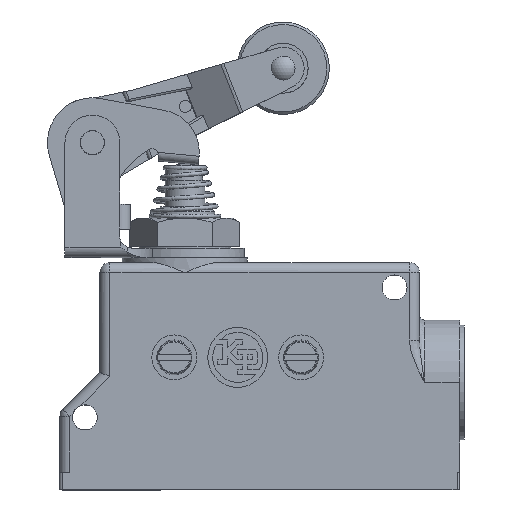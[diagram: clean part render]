
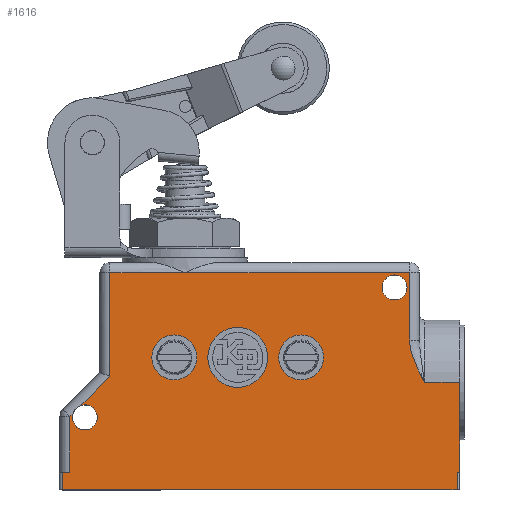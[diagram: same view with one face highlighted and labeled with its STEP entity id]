
A CAD part, top view. The second image highlights one B-rep face of the part: STEP entity #1616.
In plain terms, the highlighted planar face has unit normal (0, 0, 1).
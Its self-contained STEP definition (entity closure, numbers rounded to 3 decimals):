
#1360=CARTESIAN_POINT('',(-2.4,2.,12.5));
#1361=VERTEX_POINT('',#1360);
#1362=CARTESIAN_POINT('',(-8.4,2.,12.5));
#1363=DIRECTION('',(0.0,0.0,-1.0));
#1364=DIRECTION('',(-1.0,0.0,0.0));
#1365=AXIS2_PLACEMENT_3D('',#1362,#1363,#1364);
#1366=CIRCLE('',#1365,6.);
#1367=EDGE_CURVE('',#1361,#1361,#1366,.T.);
#1435=CARTESIAN_POINT('',(-0.842,-0.842,12.5));
#1436=DIRECTION('',(0.0,0.0,1.0));
#1437=DIRECTION('',(1.0,0.0,0.0));
#1438=AXIS2_PLACEMENT_3D('',#1435,#1436,#1437);
#1439=PLANE('',#1438);
#1440=CARTESIAN_POINT('',(-39.805,-7.633,12.5));
#1441=VERTEX_POINT('',#1440);
#1442=CARTESIAN_POINT('',(-41.367,-9.195,12.5));
#1443=VERTEX_POINT('',#1442);
#1444=CARTESIAN_POINT('',(-39.0,-10.0,12.5));
#1445=DIRECTION('',(0.0,0.0,-1.0));
#1446=DIRECTION('',(1.0,0.0,0.0));
#1447=AXIS2_PLACEMENT_3D('',#1444,#1445,#1446);
#1448=CIRCLE('',#1447,2.5);
#1449=EDGE_CURVE('',#1441,#1443,#1448,.T.);
#1450=ORIENTED_EDGE('',*,*,#1449,.T.);
#1451=CARTESIAN_POINT('',(-42.,-9.828,12.5));
#1452=VERTEX_POINT('',#1451);
#1453=CARTESIAN_POINT('',(-42.,-9.828,12.5));
#1454=DIRECTION('',(0.707,0.707,0.0));
#1455=VECTOR('',#1454,0.895);
#1456=LINE('',#1453,#1455);
#1457=EDGE_CURVE('',#1452,#1443,#1456,.T.);
#1458=ORIENTED_EDGE('',*,*,#1457,.F.);
#1459=CARTESIAN_POINT('',(-42.0,-21.0,12.5));
#1460=VERTEX_POINT('',#1459);
#1461=CARTESIAN_POINT('',(-42.0,-21.0,12.5));
#1462=DIRECTION('',(0.0,1.0,0.0));
#1463=VECTOR('',#1462,11.172);
#1464=LINE('',#1461,#1463);
#1465=EDGE_CURVE('',#1460,#1452,#1464,.T.);
#1466=ORIENTED_EDGE('',*,*,#1465,.F.);
#1467=CARTESIAN_POINT('',(-43.5,-21.0,12.5));
#1468=VERTEX_POINT('',#1467);
#1469=CARTESIAN_POINT('',(-42.,-21.,12.5));
#1470=DIRECTION('',(-1.0,0.0,0.0));
#1471=VECTOR('',#1470,1.5);
#1472=LINE('',#1469,#1471);
#1473=EDGE_CURVE('',#1460,#1468,#1472,.T.);
#1474=ORIENTED_EDGE('',*,*,#1473,.T.);
#1475=CARTESIAN_POINT('',(-43.5,-24.5,12.5));
#1476=VERTEX_POINT('',#1475);
#1477=CARTESIAN_POINT('',(-43.5,-24.5,12.5));
#1478=DIRECTION('',(0.0,1.0,0.0));
#1479=VECTOR('',#1478,3.5);
#1480=LINE('',#1477,#1479);
#1481=EDGE_CURVE('',#1476,#1468,#1480,.T.);
#1482=ORIENTED_EDGE('',*,*,#1481,.F.);
#1483=CARTESIAN_POINT('',(35.5,-24.5,12.5));
#1484=VERTEX_POINT('',#1483);
#1485=CARTESIAN_POINT('',(-43.5,-24.5,12.5));
#1486=DIRECTION('',(1.0,0.0,0.0));
#1487=VECTOR('',#1486,79.0);
#1488=LINE('',#1485,#1487);
#1489=EDGE_CURVE('',#1476,#1484,#1488,.T.);
#1490=ORIENTED_EDGE('',*,*,#1489,.T.);
#1491=CARTESIAN_POINT('',(35.5,-21.,12.5));
#1492=VERTEX_POINT('',#1491);
#1493=CARTESIAN_POINT('',(35.5,-21.,12.5));
#1494=DIRECTION('',(0.0,-1.0,0.0));
#1495=VECTOR('',#1494,3.5);
#1496=LINE('',#1493,#1495);
#1497=EDGE_CURVE('',#1492,#1484,#1496,.T.);
#1498=ORIENTED_EDGE('',*,*,#1497,.F.);
#1499=CARTESIAN_POINT('',(36.0,-21.,12.5));
#1500=VERTEX_POINT('',#1499);
#1501=CARTESIAN_POINT('',(36.0,-21.0,12.5));
#1502=DIRECTION('',(-1.0,0.0,0.0));
#1503=VECTOR('',#1502,0.5);
#1504=LINE('',#1501,#1503);
#1505=EDGE_CURVE('',#1500,#1492,#1504,.T.);
#1506=ORIENTED_EDGE('',*,*,#1505,.F.);
#1507=CARTESIAN_POINT('',(36.0,-3.,12.5));
#1508=VERTEX_POINT('',#1507);
#1509=CARTESIAN_POINT('',(36.0,-3.,12.5));
#1510=DIRECTION('',(0.0,-1.0,0.0));
#1511=VECTOR('',#1510,18.0);
#1512=LINE('',#1509,#1511);
#1513=EDGE_CURVE('',#1508,#1500,#1512,.T.);
#1514=ORIENTED_EDGE('',*,*,#1513,.F.);
#1515=CARTESIAN_POINT('',(29.,-3.,12.5));
#1516=VERTEX_POINT('',#1515);
#1517=CARTESIAN_POINT('',(29.,-3.,12.5));
#1518=DIRECTION('',(1.0,0.0,0.0));
#1519=VECTOR('',#1518,7.);
#1520=LINE('',#1517,#1519);
#1521=EDGE_CURVE('',#1516,#1508,#1520,.T.);
#1522=ORIENTED_EDGE('',*,*,#1521,.F.);
#1523=CARTESIAN_POINT('',(26.,5.485,12.5));
#1524=VERTEX_POINT('',#1523);
#1525=CARTESIAN_POINT('',(26.,5.485,12.5));
#1526=CARTESIAN_POINT('',(26.,4.882,12.5));
#1527=CARTESIAN_POINT('',(26.143,3.67,12.5));
#1528=CARTESIAN_POINT('',(26.648,1.918,12.5));
#1529=CARTESIAN_POINT('',(27.22,0.524,12.5));
#1530=CARTESIAN_POINT('',(27.736,-0.571,12.5));
#1531=CARTESIAN_POINT('',(28.144,-1.383,12.5));
#1532=CARTESIAN_POINT('',(28.566,-2.188,12.5));
#1533=CARTESIAN_POINT('',(28.851,-2.721,12.5));
#1534=CARTESIAN_POINT('',(28.995,-2.991,12.5));
#1535=CARTESIAN_POINT('',(28.998,-2.996,12.5));
#1536=CARTESIAN_POINT('',(29.,-3.,12.5));
#1537=B_SPLINE_CURVE_WITH_KNOTS('',3,(#1525,#1526,#1527,#1528,#1529,#1530,#1531,#1532,#1533,#1534,#1535,#1536),.UNSPECIFIED.,.F.,.U.,(4,1,1,1,1,1,1,2,4),(0.0,0.181,0.362,0.543,0.634,0.724,0.815,0.906,0.907),.UNSPECIFIED.);
#1538=EDGE_CURVE('',#1524,#1516,#1537,.T.);
#1539=ORIENTED_EDGE('',*,*,#1538,.F.);
#1540=CARTESIAN_POINT('',(26.,19.,12.5));
#1541=VERTEX_POINT('',#1540);
#1542=CARTESIAN_POINT('',(26.,19.,12.5));
#1543=DIRECTION('',(0.0,-1.0,0.0));
#1544=VECTOR('',#1543,13.515);
#1545=LINE('',#1542,#1544);
#1546=EDGE_CURVE('',#1541,#1524,#1545,.T.);
#1547=ORIENTED_EDGE('',*,*,#1546,.F.);
#1548=CARTESIAN_POINT('',(-19.,19.,12.5));
#1549=VERTEX_POINT('',#1548);
#1550=CARTESIAN_POINT('',(-19.0,19.,12.5));
#1551=DIRECTION('',(1.0,0.0,0.0));
#1552=VECTOR('',#1551,45.);
#1553=LINE('',#1550,#1552);
#1554=EDGE_CURVE('',#1549,#1541,#1553,.T.);
#1555=ORIENTED_EDGE('',*,*,#1554,.F.);
#1556=CARTESIAN_POINT('',(-34.,19.,12.5));
#1557=VERTEX_POINT('',#1556);
#1558=CARTESIAN_POINT('',(-34.,19.,12.5));
#1559=DIRECTION('',(1.0,0.0,0.0));
#1560=VECTOR('',#1559,15.);
#1561=LINE('',#1558,#1560);
#1562=EDGE_CURVE('',#1557,#1549,#1561,.T.);
#1563=ORIENTED_EDGE('',*,*,#1562,.F.);
#1564=CARTESIAN_POINT('',(-34.,-1.828,12.5));
#1565=VERTEX_POINT('',#1564);
#1566=CARTESIAN_POINT('',(-34.,-1.828,12.5));
#1567=DIRECTION('',(0.0,1.0,0.0));
#1568=VECTOR('',#1567,20.828);
#1569=LINE('',#1566,#1568);
#1570=EDGE_CURVE('',#1565,#1557,#1569,.T.);
#1571=ORIENTED_EDGE('',*,*,#1570,.F.);
#1572=CARTESIAN_POINT('',(-39.805,-7.633,12.5));
#1573=DIRECTION('',(0.707,0.707,0.0));
#1574=VECTOR('',#1573,8.209);
#1575=LINE('',#1572,#1574);
#1576=EDGE_CURVE('',#1441,#1565,#1575,.T.);
#1577=ORIENTED_EDGE('',*,*,#1576,.F.);
#1578=EDGE_LOOP('',(#1450,#1458,#1466,#1474,#1482,#1490,#1498,#1506,#1514,#1522,#1539,#1547,#1555,#1563,#1571,#1577));
#1579=FACE_OUTER_BOUND('',#1578,.T.);
#1580=CARTESIAN_POINT('',(25.5,16.0,12.5));
#1581=VERTEX_POINT('',#1580);
#1582=CARTESIAN_POINT('',(23.0,16.0,12.5));
#1583=DIRECTION('',(0.0,0.0,-1.0));
#1584=DIRECTION('',(1.0,0.0,0.0));
#1585=AXIS2_PLACEMENT_3D('',#1582,#1583,#1584);
#1586=CIRCLE('',#1585,2.5);
#1587=EDGE_CURVE('',#1581,#1581,#1586,.T.);
#1588=ORIENTED_EDGE('',*,*,#1587,.T.);
#1589=EDGE_LOOP('',(#1588));
#1590=FACE_BOUND('',#1589,.T.);
#1591=CARTESIAN_POINT('',(-21.1,6.5,12.5));
#1592=VERTEX_POINT('',#1591);
#1593=CARTESIAN_POINT('',(-21.1,2.,12.5));
#1594=DIRECTION('',(0.0,0.0,-1.0));
#1595=DIRECTION('',(0.0,-1.0,0.0));
#1596=AXIS2_PLACEMENT_3D('',#1593,#1594,#1595);
#1597=CIRCLE('',#1596,4.5);
#1598=EDGE_CURVE('',#1592,#1592,#1597,.T.);
#1599=ORIENTED_EDGE('',*,*,#1598,.T.);
#1600=EDGE_LOOP('',(#1599));
#1601=FACE_BOUND('',#1600,.T.);
#1602=CARTESIAN_POINT('',(4.3,6.5,12.5));
#1603=VERTEX_POINT('',#1602);
#1604=CARTESIAN_POINT('',(4.3,2.,12.5));
#1605=DIRECTION('',(0.0,0.0,-1.0));
#1606=DIRECTION('',(0.0,-1.0,0.0));
#1607=AXIS2_PLACEMENT_3D('',#1604,#1605,#1606);
#1608=CIRCLE('',#1607,4.5);
#1609=EDGE_CURVE('',#1603,#1603,#1608,.T.);
#1610=ORIENTED_EDGE('',*,*,#1609,.T.);
#1611=EDGE_LOOP('',(#1610));
#1612=FACE_BOUND('',#1611,.T.);
#1613=ORIENTED_EDGE('',*,*,#1367,.T.);
#1614=EDGE_LOOP('',(#1613));
#1615=FACE_BOUND('',#1614,.T.);
#1616=ADVANCED_FACE('',(#1579,#1590,#1601,#1612,#1615),#1439,.T.);
